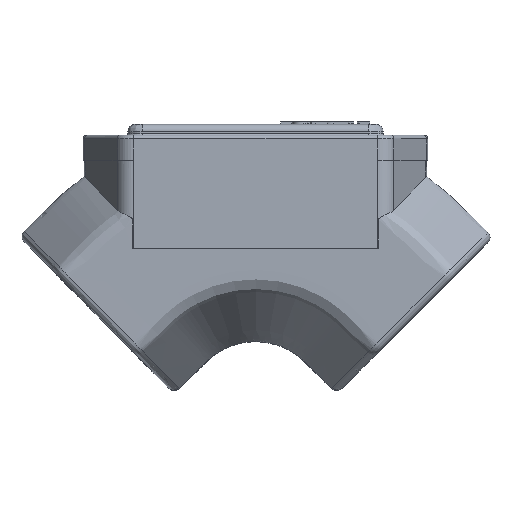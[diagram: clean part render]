
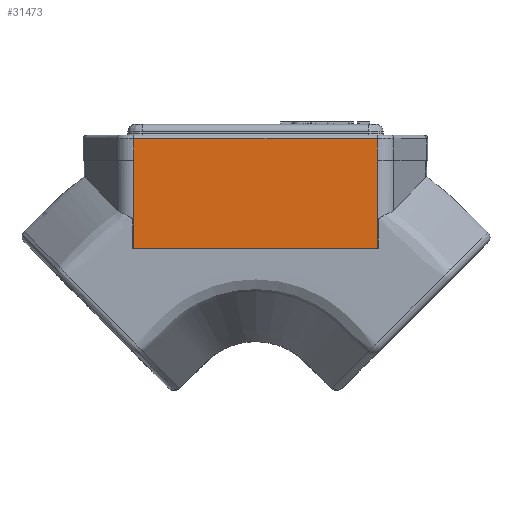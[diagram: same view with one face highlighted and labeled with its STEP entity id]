
A CAD part, top view. The second image highlights one B-rep face of the part: STEP entity #31473.
In plain terms, the highlighted planar face has unit normal (0, 0, 1).
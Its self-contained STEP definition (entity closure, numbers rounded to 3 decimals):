
#856 = CARTESIAN_POINT ( 'NONE',  ( 1553.47, 991.44, 27. ) ) ;
#2261 = LINE ( 'NONE', #26921, #9661 ) ;
#2407 = CARTESIAN_POINT ( 'NONE',  ( 1621.182, 1015.94, 27. ) ) ;
#2538 = CARTESIAN_POINT ( 'NONE',  ( 1553.455, 1015.94, 27. ) ) ;
#2864 = ORIENTED_EDGE ( 'NONE', *, *, #25352, .F. ) ;
#4854 = VECTOR ( 'NONE', #21540, 1000. ) ;
#5422 = DIRECTION ( 'NONE',  ( 0., 1., 0. ) ) ;
#5423 = CARTESIAN_POINT ( 'NONE',  ( 1621.15, 1015.94, 27. ) ) ;
#5437 = ORIENTED_EDGE ( 'NONE', *, *, #26596, .T. ) ;
#6533 = DIRECTION ( 'NONE',  ( 0., 1., 0. ) ) ;
#7032 = ORIENTED_EDGE ( 'NONE', *, *, #30537, .T. ) ;
#7370 = CARTESIAN_POINT ( 'NONE',  ( 1621.15, 991.44, 27. ) ) ;
#7460 = CARTESIAN_POINT ( 'NONE',  ( 1621.15, 991.44, 27. ) ) ;
#7809 = DIRECTION ( 'NONE',  ( 0., 0., -1. ) ) ;
#8253 = CARTESIAN_POINT ( 'NONE',  ( 1621.197, 1015.94, 27. ) ) ;
#8477 = CARTESIAN_POINT ( 'NONE',  ( 1553.47, 1015.94, 27. ) ) ;
#8570 = VECTOR ( 'NONE', #20629, 1000. ) ;
#9642 = CARTESIAN_POINT ( 'NONE',  ( 1621.15, 1015.94, 27. ) ) ;
#9661 = VECTOR ( 'NONE', #13072, 1000. ) ;
#10571 = B_SPLINE_CURVE_WITH_KNOTS ( 'NONE', 3,
 ( #5423, #36048, #2407, #8253 ),
 .UNSPECIFIED., .F., .F.,
 ( 4, 4 ),
 ( 0.999, 1. ),
 .UNSPECIFIED. ) ;
#11088 = VECTOR ( 'NONE', #5422, 1000. ) ;
#11151 = CARTESIAN_POINT ( 'NONE',  ( 1553.423, 1015.94, 27. ) ) ;
#13072 = DIRECTION ( 'NONE',  ( -1., 0., 0. ) ) ;
#13129 = EDGE_CURVE ( 'NONE', #21909, #32547, #29094, .T. ) ;
#13151 = VECTOR ( 'NONE', #6533, 1000. ) ;
#14454 = LINE ( 'NONE', #7370, #4854 ) ;
#14676 = ORIENTED_EDGE ( 'NONE', *, *, #30592, .T. ) ;
#15494 = LINE ( 'NONE', #30477, #11088 ) ;
#15925 = ORIENTED_EDGE ( 'NONE', *, *, #24399, .F. ) ;
#15984 = DIRECTION ( 'NONE',  ( -1., 0., 0. ) ) ;
#16630 = LINE ( 'NONE', #7460, #35637 ) ;
#18701 = DIRECTION ( 'NONE',  ( -1., 0., 0. ) ) ;
#20581 = FACE_OUTER_BOUND ( 'NONE', #31965, .T. ) ;
#20629 = DIRECTION ( 'NONE',  ( 0., 1., 0. ) ) ;
#21151 = CARTESIAN_POINT ( 'NONE',  ( 1621.197, 1021.94, 27. ) ) ;
#21540 = DIRECTION ( 'NONE',  ( 0., 1., 0. ) ) ;
#21909 = VERTEX_POINT ( 'NONE', #26560 ) ;
#22119 = CARTESIAN_POINT ( 'NONE',  ( 1553.423, 1015.94, 27. ) ) ;
#22833 = VERTEX_POINT ( 'NONE', #856 ) ;
#23258 = VERTEX_POINT ( 'NONE', #29886 ) ;
#24107 = ORIENTED_EDGE ( 'NONE', *, *, #26537, .T. ) ;
#24399 = EDGE_CURVE ( 'NONE', #22833, #35336, #15494, .T. ) ;
#25216 = CARTESIAN_POINT ( 'NONE',  ( 1553.439, 1015.94, 27. ) ) ;
#25352 = EDGE_CURVE ( 'NONE', #23258, #22833, #16630, .T. ) ;
#26115 = CARTESIAN_POINT ( 'NONE',  ( 1621.197, 1022.94, 27. ) ) ;
#26537 = EDGE_CURVE ( 'NONE', #31316, #21909, #10571, .T. ) ;
#26560 = CARTESIAN_POINT ( 'NONE',  ( 1621.197, 1015.94, 27. ) ) ;
#26596 = EDGE_CURVE ( 'NONE', #31550, #35336, #34216, .T. ) ;
#26682 = AXIS2_PLACEMENT_3D ( 'NONE', #29688, #7809, #15984 ) ;
#26921 = CARTESIAN_POINT ( 'NONE',  ( 1553.423, 1021.94, 27. ) ) ;
#27298 = CARTESIAN_POINT ( 'NONE',  ( 1553.47, 1015.94, 27. ) ) ;
#28036 = LINE ( 'NONE', #28291, #13151 ) ;
#28131 = EDGE_CURVE ( 'NONE', #31550, #34212, #28036, .T. ) ;
#28291 = CARTESIAN_POINT ( 'NONE',  ( 1553.423, 1022.94, 27. ) ) ;
#29094 = LINE ( 'NONE', #26115, #8570 ) ;
#29688 = CARTESIAN_POINT ( 'NONE',  ( 1553.423, 1022.94, 27. ) ) ;
#29886 = CARTESIAN_POINT ( 'NONE',  ( 1621.15, 991.44, 27. ) ) ;
#30477 = CARTESIAN_POINT ( 'NONE',  ( 1553.47, 991.44, 27. ) ) ;
#30537 = EDGE_CURVE ( 'NONE', #23258, #31316, #14454, .T. ) ;
#30592 = EDGE_CURVE ( 'NONE', #32547, #34212, #2261, .T. ) ;
#31316 = VERTEX_POINT ( 'NONE', #9642 ) ;
#31473 = ADVANCED_FACE ( 'NONE', ( #20581 ), #35732, .F. ) ;
#31550 = VERTEX_POINT ( 'NONE', #22119 ) ;
#31752 = ORIENTED_EDGE ( 'NONE', *, *, #13129, .T. ) ;
#31965 = EDGE_LOOP ( 'NONE', ( #31752, #14676, #35241, #5437, #15925, #2864, #7032, #24107 ) ) ;
#32475 = CARTESIAN_POINT ( 'NONE',  ( 1553.423, 1021.94, 27. ) ) ;
#32547 = VERTEX_POINT ( 'NONE', #21151 ) ;
#34212 = VERTEX_POINT ( 'NONE', #32475 ) ;
#34216 = B_SPLINE_CURVE_WITH_KNOTS ( 'NONE', 3,
 ( #11151, #25216, #2538, #8477 ),
 .UNSPECIFIED., .F., .F.,
 ( 4, 4 ),
 ( 0., 0.001 ),
 .UNSPECIFIED. ) ;
#35241 = ORIENTED_EDGE ( 'NONE', *, *, #28131, .F. ) ;
#35336 = VERTEX_POINT ( 'NONE', #27298 ) ;
#35637 = VECTOR ( 'NONE', #18701, 1000. ) ;
#35732 = PLANE ( 'NONE',  #26682 ) ;
#36048 = CARTESIAN_POINT ( 'NONE',  ( 1621.166, 1015.94, 27. ) ) ;
